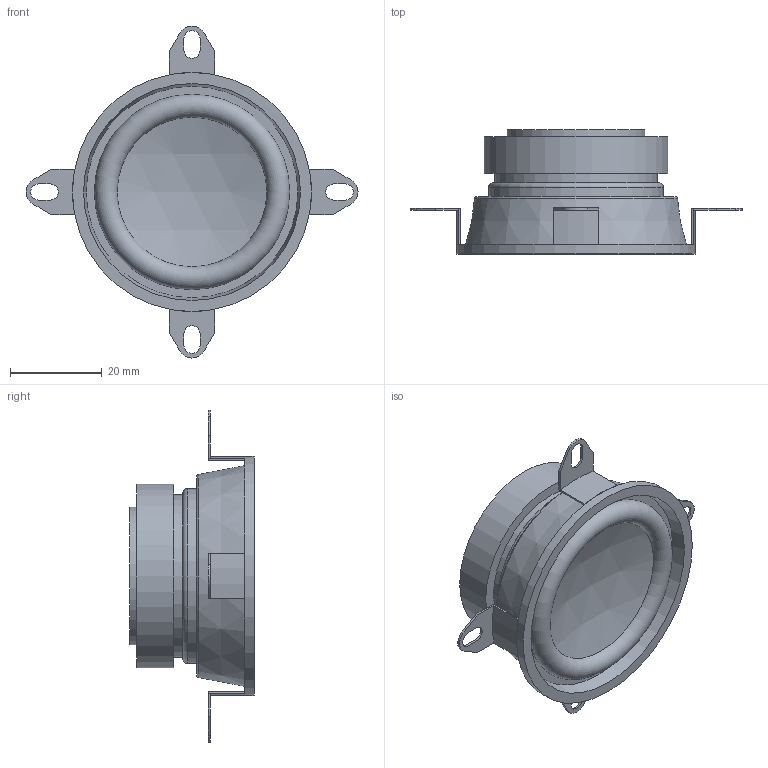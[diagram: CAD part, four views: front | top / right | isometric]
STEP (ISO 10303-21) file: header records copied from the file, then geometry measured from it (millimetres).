
FILE_DESCRIPTION(('FreeCAD Model'),'2;1');
FILE_NAME('Open CASCADE Shape Model','2023-05-06T18:44:57',('Author'),( ''),'Open CASCADE STEP processor 7.5','FreeCAD','Unknown');
FILE_SCHEMA(('AUTOMOTIVE_DESIGN { 1 0 10303 214 1 1 1 1 }'));
Length unit declared in the file: millimetre
Products named in the file (1): dyn_d52h27mm
Bounding box: 72.18 x 27 x 72.18 mm (x, y, z)
Volume: 34324.2 mm3; surface area: 10112.9 mm2
Topology: 5 solids, 5 shells, 83 faces, 188 edges, 122 vertices
Faces by surface type: plane 52, cylinder 25, torus 3, cone 2, sphere 1
Full cylindrical faces by diameter (mm): 30 x1, 35.236 x1, 38 x1, 40 x1, 52 x1
Entity records: 3258 total; most frequent: DIRECTION 404, CARTESIAN_POINT 384, ORIENTED_EDGE 356, EDGE_CURVE 178, AXIS2_PLACEMENT_3D 142, VERTEX_POINT 122, VECTOR 120, LINE 120
